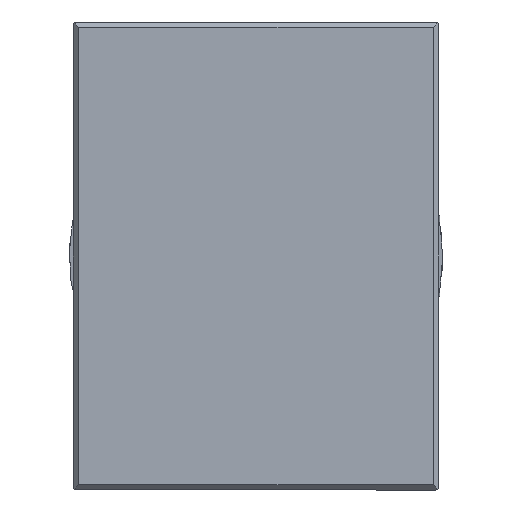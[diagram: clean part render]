
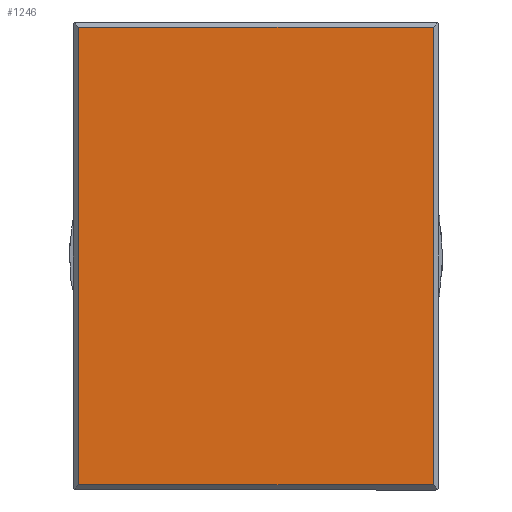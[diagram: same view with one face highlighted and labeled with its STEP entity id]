
A CAD part, front view. The second image highlights one B-rep face of the part: STEP entity #1246.
In plain terms, the highlighted planar face has unit normal (0, -1, 0) as drawn and (0, 0, -1) by its records, which use the part's own axes.
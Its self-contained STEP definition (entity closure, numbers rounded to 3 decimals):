
#522 = CARTESIAN_POINT ( 'NONE',  ( 0.2, 0., 0. ) ) ;
#774 = PLANE ( 'NONE',  #1579 ) ;
#914 = CARTESIAN_POINT ( 'NONE',  ( 0.2, -0.2, 0. ) ) ;
#917 = DIRECTION ( 'NONE',  ( 1., 0., 0. ) ) ;
#967 = VERTEX_POINT ( 'NONE', #3411 ) ;
#1027 = DIRECTION ( 'NONE',  ( 0., -1., 0. ) ) ;
#1241 = VECTOR ( 'NONE', #917, 1000. ) ;
#1246 = ADVANCED_FACE ( 'NONE', ( #4186 ), #774, .F. ) ;
#1258 = ORIENTED_EDGE ( 'NONE', *, *, #1277, .T. ) ;
#1277 = EDGE_CURVE ( 'NONE', #3594, #967, #1982, .T. ) ;
#1418 = LINE ( 'NONE', #4439, #3189 ) ;
#1450 = CARTESIAN_POINT ( 'NONE',  ( 0.2, -13.3, 0. ) ) ;
#1461 = EDGE_CURVE ( 'NONE', #967, #2702, #2933, .T. ) ;
#1490 = DIRECTION ( 'NONE',  ( -1., 0., 0. ) ) ;
#1579 = AXIS2_PLACEMENT_3D ( 'NONE', #2313, #1609, #1703 ) ;
#1609 = DIRECTION ( 'NONE',  ( 0., 0., 1. ) ) ;
#1703 = DIRECTION ( 'NONE',  ( 1., 0., 0. ) ) ;
#1982 = LINE ( 'NONE', #4325, #1241 ) ;
#2036 = EDGE_CURVE ( 'NONE', #4145, #3594, #3945, .T. ) ;
#2105 = EDGE_LOOP ( 'NONE', ( #4199, #4559, #3326, #1258 ) ) ;
#2313 = CARTESIAN_POINT ( 'NONE',  ( 0., 0., 0. ) ) ;
#2672 = CARTESIAN_POINT ( 'NONE',  ( 17.1, -13.3, 0. ) ) ;
#2702 = VERTEX_POINT ( 'NONE', #2672 ) ;
#2850 = DIRECTION ( 'NONE',  ( 0., 1., 0. ) ) ;
#2933 = LINE ( 'NONE', #4424, #3785 ) ;
#3189 = VECTOR ( 'NONE', #1490, 1000. ) ;
#3326 = ORIENTED_EDGE ( 'NONE', *, *, #2036, .T. ) ;
#3411 = CARTESIAN_POINT ( 'NONE',  ( 17.1, -0.2, 0. ) ) ;
#3469 = VECTOR ( 'NONE', #2850, 1000. ) ;
#3594 = VERTEX_POINT ( 'NONE', #914 ) ;
#3785 = VECTOR ( 'NONE', #1027, 1000. ) ;
#3945 = LINE ( 'NONE', #522, #3469 ) ;
#4145 = VERTEX_POINT ( 'NONE', #1450 ) ;
#4186 = FACE_OUTER_BOUND ( 'NONE', #2105, .T. ) ;
#4199 = ORIENTED_EDGE ( 'NONE', *, *, #1461, .T. ) ;
#4252 = EDGE_CURVE ( 'NONE', #2702, #4145, #1418, .T. ) ;
#4325 = CARTESIAN_POINT ( 'NONE',  ( 0., -0.2, 0. ) ) ;
#4424 = CARTESIAN_POINT ( 'NONE',  ( 17.1, 0., 0. ) ) ;
#4439 = CARTESIAN_POINT ( 'NONE',  ( 0., -13.3, 0. ) ) ;
#4559 = ORIENTED_EDGE ( 'NONE', *, *, #4252, .T. ) ;
